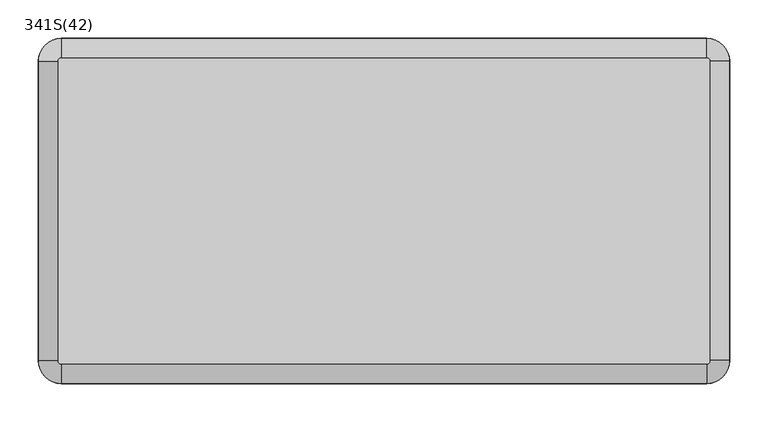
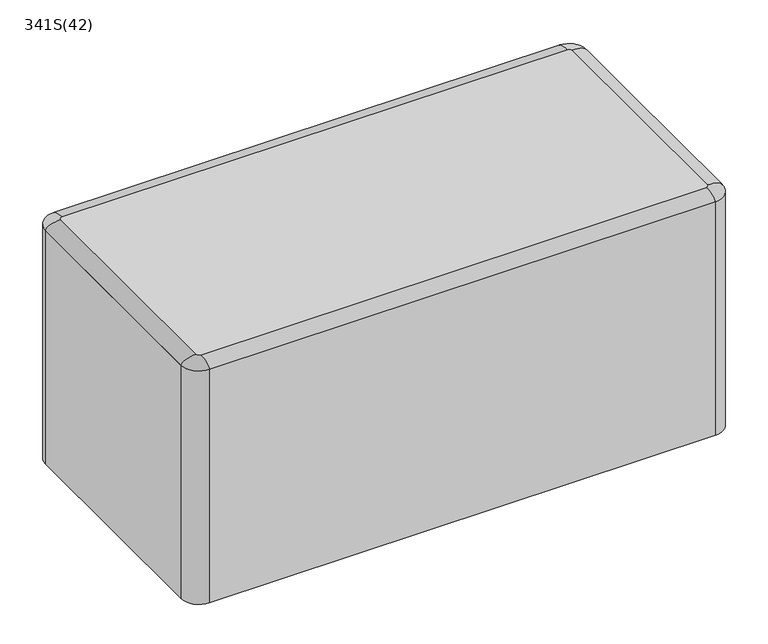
"""IFC4 building model written with IfcOpenShell, lengths in millimetres: furniture geometry, Bit Stick : 341S(42)."""

from ifc_helpers import new_model, si_unit, point, frame, frame_2d, origin, origin_with_axes, place, context, project, spatial, polyline, circle_curve, ellipse_curve, trimmed, segment, composite_curve, outline, extrude, source, transform, mapped, element, save
from ifc_brep_helpers import plane_surface, revolved_surface, extruded_surface, advanced_brep


def furniture_341s_42_416b81a9(model_context):
    return source(origin(), model_context, "Body", "SolidModel", [
        advanced_brep(
        [(-420.0, 200.0, 420.0), (-420.0, 225.0, 410.0), (-450.0, 195.0, 410.0), (-425.0, 195.0, 420.0), (-450.0, -195.0, 410.0), (-425.0, -195.0, 420.0), (-420.0, -225.0, 410.0), (-420.0, -200.0, 420.0), (420.0, -225.0, 410.0), (420.0, -200.0, 420.0), (450.0, -195.0, 410.0), (425.0, -195.0, 420.0), (450.0, 195.0, 410.0), (425.0, 195.0, 420.0), (420.0, 225.0, 410.0), (420.0, 200.0, 420.0)],
        [
            (0, 1, ellipse_curve(frame((-420.0, 200.0, 410.0), z_axis=(-1.0, 0.0, 0.0), x_axis=(0.0, 1.0, 0.0)), 25.0, 10.0)),
            (1, 2, circle_curve(frame((-420.0, 195.0, 410.0), z_axis=(0.0, 0.0, 1.0), x_axis=(0.0, 1.0, 0.0)), 30.0)),
            (2, 3, ellipse_curve(frame((-425.0, 195.0, 410.0), z_axis=(0.0, 1.0, 0.0), x_axis=(-1.0, 0.0, 0.0)), 25.0, 10.0)),
            (3, 0, circle_curve(frame((-420.0, 195.0, 420.0), z_axis=(0.0, 0.0, -1.0), x_axis=(0.0, 1.0, 0.0)), 5.0)),
            (2, 4),
            (4, 5, ellipse_curve(frame((-425.0, -195.0, 410.0), z_axis=(0.0, 1.0, 0.0), x_axis=(-1.0, 0.0, 0.0)), 25.0, 10.0)),
            (5, 3),
            (4, 6, circle_curve(frame((-420.0, -195.0, 410.0), z_axis=(0.0, 0.0, 1.0), x_axis=(-1.0, 0.0, 0.0)), 30.0)),
            (6, 7, ellipse_curve(frame((-420.0, -200.0, 410.0), z_axis=(-1.0, 0.0, 0.0), x_axis=(0.0, -1.0, 0.0)), 25.0, 10.0)),
            (7, 5, circle_curve(frame((-420.0, -195.0, 420.0), z_axis=(0.0, 0.0, -1.0), x_axis=(-1.0, 0.0, 0.0)), 5.0)),
            (6, 8),
            (8, 9, ellipse_curve(frame((420.0, -200.0, 410.0), z_axis=(-1.0, 0.0, 0.0), x_axis=(0.0, -1.0, 0.0)), 25.0, 10.0)),
            (9, 7),
            (8, 10, circle_curve(frame((420.0, -195.0, 410.0), z_axis=(0.0, 0.0, 1.0), x_axis=(0.0, -1.0, 0.0)), 30.0)),
            (10, 11, ellipse_curve(frame((425.0, -195.0, 410.0), z_axis=(0.0, -1.0, 0.0), x_axis=(1.0, 0.0, 0.0)), 25.0, 10.0)),
            (11, 9, circle_curve(frame((420.0, -195.0, 420.0), z_axis=(0.0, 0.0, -1.0), x_axis=(0.0, -1.0, 0.0)), 5.0)),
            (10, 12),
            (12, 13, ellipse_curve(frame((425.0, 195.0, 410.0), z_axis=(0.0, -1.0, 0.0), x_axis=(1.0, 0.0, 0.0)), 25.0, 10.0)),
            (13, 11),
            (12, 14, circle_curve(frame((420.0, 195.0, 410.0), z_axis=(0.0, 0.0, 1.0), x_axis=(1.0, 0.0, 0.0)), 30.0)),
            (14, 15, ellipse_curve(frame((420.0, 200.0, 410.0), z_axis=(1.0, 0.0, 0.0), x_axis=(0.0, 1.0, 0.0)), 25.0, 10.0)),
            (15, 13, circle_curve(frame((420.0, 195.0, 420.0), z_axis=(0.0, 0.0, -1.0), x_axis=(1.0, 0.0, 0.0)), 5.0)),
            (1, 14),
            (0, 15),
        ],
        [
            revolved_surface(trimmed(ellipse_curve(frame((-420.0, 200.0, 410.0), z_axis=(1.0, 0.0, 0.0), x_axis=(0.0, 1.0, 0.0)), 25.0, 10.0), [point((-420.0, 225.0, 410.0))], [point((-420.0, 200.0, 420.0))], True, "CARTESIAN"), (-420.0, 195.0, 410.0), (0.0, 0.0, 1.0)),
            extruded_surface(trimmed(ellipse_curve(frame((-425.0, -195.0, 410.0), z_axis=(0.0, 1.0, 0.0), x_axis=(-1.0, 0.0, 0.0)), 25.0, 10.0), [point((-450.0, -195.0, 410.0))], [point((-425.0, -195.0, 420.0))], True, "CARTESIAN"), (0.0, 390.0, 0.0), 390.0),
            revolved_surface(trimmed(ellipse_curve(frame((-425.0, -195.0, 410.0), z_axis=(0.0, 1.0, 0.0), x_axis=(-1.0, 0.0, 0.0)), 25.0, 10.0), [point((-450.0, -195.0, 410.0))], [point((-425.0, -195.0, 420.0))], True, "CARTESIAN"), (-420.0, -195.0, 410.0), (0.0, 0.0, 1.0)),
            extruded_surface(trimmed(ellipse_curve(frame((420.0, -200.0, 410.0), z_axis=(-1.0, 0.0, 0.0), x_axis=(0.0, -1.0, 0.0)), 25.0, 10.0), [point((420.0, -225.0, 410.0))], [point((420.0, -200.0, 420.0))], True, "CARTESIAN"), (-840.0, 0.0, 0.0), 840.0),
            revolved_surface(trimmed(ellipse_curve(frame((420.0, -200.0, 410.0), z_axis=(-1.0, 0.0, 0.0), x_axis=(0.0, -1.0, 0.0)), 25.0, 10.0), [point((420.0, -225.0, 410.0))], [point((420.0, -200.0, 420.0))], True, "CARTESIAN"), (420.0, -195.0, 410.0), (0.0, 0.0, 1.0)),
            extruded_surface(trimmed(ellipse_curve(frame((425.0, 195.0, 410.0), z_axis=(0.0, -1.0, 0.0), x_axis=(1.0, 0.0, 0.0)), 25.0, 10.0), [point((450.0, 195.0, 410.0))], [point((425.0, 195.0, 420.0))], True, "CARTESIAN"), (0.0, -390.0, 0.0), 390.0),
            revolved_surface(trimmed(ellipse_curve(frame((425.0, 195.0, 410.0), z_axis=(0.0, -1.0, 0.0), x_axis=(1.0, 0.0, 0.0)), 25.0, 10.0), [point((450.0, 195.0, 410.0))], [point((425.0, 195.0, 420.0))], True, "CARTESIAN"), (420.0, 195.0, 410.0), (0.0, 0.0, 1.0)),
            plane_surface(frame((420.0, 200.0, 410.0), z_axis=(0.0, 0.0, -1.0), x_axis=(-1.0, 0.0, 0.0))),
            extruded_surface(trimmed(ellipse_curve(frame((-420.0, 200.0, 410.0), z_axis=(1.0, 0.0, 0.0), x_axis=(0.0, 1.0, 0.0)), 25.0, 10.0), [point((-420.0, 225.0, 410.0))], [point((-420.0, 200.0, 420.0))], True, "CARTESIAN"), (840.0, 0.0, 0.0), 840.0),
            plane_surface(frame((-420.0, 200.0, 420.0), z_axis=(0.0, 0.0, 1.0), x_axis=(-1.0, 0.0, 0.0))),
        ],
        [
            (0, [[1, 2, 3, 4]]),
            (1, [[-3, 5, 6, 7]]),
            (2, [[-6, 8, 9, 10]]),
            (3, [[-9, 11, 12, 13]]),
            (4, [[-12, 14, 15, 16]]),
            (5, [[-15, 17, 18, 19]]),
            (6, [[-18, 20, 21, 22]]),
            (7, [[-2, 23, -20, -17, -14, -11, -8, -5]]),
            (8, [[-1, 24, -21, -23]]),
            (9, [[-4, -7, -10, -13, -16, -19, -22, -24]]),
        ],
    ),
        extrude(outline(composite_curve([segment(trimmed(circle_curve(frame_2d((420.0, 195.0)), 30.0), [point((420.0, 225.0))], [point((450.0, 195.0))], False, "CARTESIAN"), True, "CONTINUOUS"), segment(polyline([(450.0, 195.0), (450.0, -195.0)]), True, "CONTINUOUS"), segment(trimmed(circle_curve(frame_2d((420.0, -195.0)), 30.0), [point((450.0, -195.0))], [point((420.0, -225.0))], False, "CARTESIAN"), True, "CONTINUOUS"), segment(polyline([(420.0, -225.0), (-420.0, -225.0)]), True, "CONTINUOUS"), segment(trimmed(circle_curve(frame_2d((-420.0, -195.0)), 30.0), [point((-420.0, -225.0))], [point((-450.0, -195.0))], False, "CARTESIAN"), True, "CONTINUOUS"), segment(polyline([(-450.0, -195.0), (-450.0, 195.0)]), True, "CONTINUOUS"), segment(trimmed(circle_curve(frame_2d((-420.0, 195.0)), 30.0), [point((-450.0, 195.0))], [point((-420.0, 225.0))], False, "CARTESIAN"), True, "CONTINUOUS"), segment(polyline([(-420.0, 225.0), (420.0, 225.0)]), True, "CONTINUOUS")], self_intersect=False)), origin_with_axes(), (0.0, 0.0, 1.0), 410.0),
    ])


if __name__ == "__main__":
    model = new_model("IFC4")
    model_context = context("Model", 3, world=origin())
    ifc_project = project(units=[si_unit("LENGTHUNIT", "METRE", prefix="MILLI")], contexts=[model_context])
    site = spatial("IfcSite", under=ifc_project)
    building = spatial("IfcBuilding", under=site)
    placement = place(None, origin())
    furniture_341s_42_shape = furniture_341s_42_416b81a9(model_context)
    element("IfcFurniture", 1, ObjectType="Bit Stick : 341S(42)", at=placement, inside=building, context=model_context, shape_type="MappedRepresentation", body=[
        mapped(furniture_341s_42_shape, transform((0.0, 0.0, 0.0), x_axis=(1.0, 0.0, 0.0), y_axis=(0.0, 1.0, 0.0), z_axis=(0.0, 0.0, 1.0))),
    ])
    save(model, "model.ifc")
